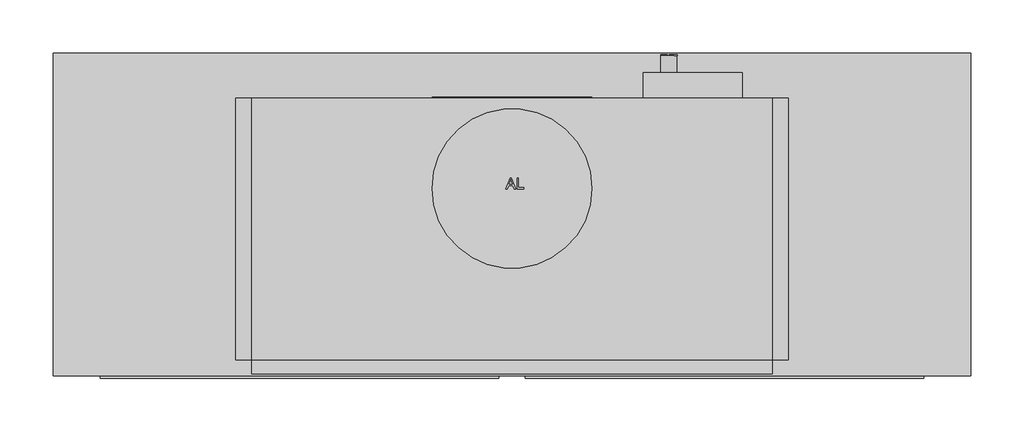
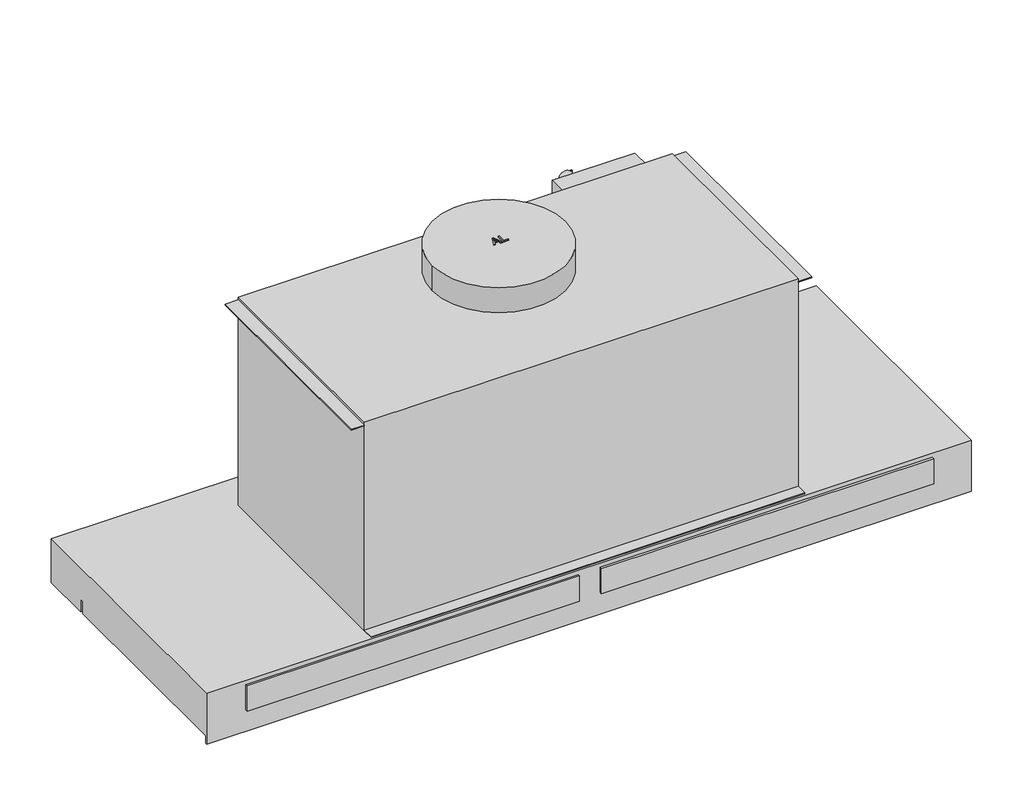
# Not in any storey: 1 proxy.
"""IFC4 building model written with IfcOpenShell, lengths in millimetres."""

import ifcopenshell
import ifcopenshell.guid

model = None  # the IFC model being written
_history = None  # IfcOwnerHistory: only IFC2X3 demands one
_inside = {}  # id of a spatial element -> (the spatial element, [elements in it])
_under = {}  # id of a project, library or spatial element -> (it, [spatial elements below it])
_declared = {}  # id of a project -> (the project, [libraries it declares])
_typed = {}  # id of a type object -> (the type object, [elements of that type])
_made_of = {}  # id of a material, layer set ... -> (it, [elements and type objects made of it])


def new_model(schema):
    """Start an empty IFC model of exactly this schema.

    Asked for "IFC4X3", IfcOpenShell would pick the latest addendum, in which some entities
    have other attributes; the version numbers below select the first issue.
    IFC2X3 requires an IfcOwnerHistory on every rooted entity: one is made here for all.
    """
    global model, _history
    if schema == "IFC4X3":
        model = ifcopenshell.file(schema_version=(4, 3, 0, 0))
    else:
        model = ifcopenshell.file(schema=schema)
    _inside.clear()
    _under.clear()
    _declared.clear()
    _typed.clear()
    _made_of.clear()
    _history = None
    if model.schema == "IFC2X3":
        org = make("IfcOrganization", Name="unknown")
        user = make(
            "IfcPersonAndOrganization",
            ThePerson=make("IfcPerson", FamilyName="unknown"),
            TheOrganization=org,
        )
        app = make(
            "IfcApplication",
            ApplicationDeveloper=org,
            Version="unknown",
            ApplicationFullName="unknown",
            ApplicationIdentifier="unknown",
        )
        _history = make(
            "IfcOwnerHistory",
            OwningUser=user,
            OwningApplication=app,
            ChangeAction="ADDED",
            CreationDate=0,
        )
    return model


def make(cls, **values):
    """One entity of the class cls with the attributes given. An attribute that is None is left unset."""
    return model.create_entity(
        cls, **{name: value for name, value in values.items() if value is not None}
    )


def rooted(cls, **values):
    """An entity with a GlobalId (a new one), such as an element, a storey or a relation."""
    return make(cls, GlobalId=ifcopenshell.guid.new(), OwnerHistory=_history, **values)


def si_unit(unit_type, name, prefix=None):
    """IfcSIUnit, for example si_unit("LENGTHUNIT", "METRE", prefix="MILLI")."""
    return make("IfcSIUnit", UnitType=unit_type, Prefix=prefix, Name=name)


def assignment(units):
    """IfcUnitAssignment: the units of a project."""
    return None if units is None else make("IfcUnitAssignment", Units=units)


def point(xyz):
    """IfcCartesianPoint."""
    return None if xyz is None else make("IfcCartesianPoint", Coordinates=xyz)


def direction(xyz):
    """IfcDirection."""
    return None if xyz is None else make("IfcDirection", DirectionRatios=xyz)


def frame(location, z_axis=None, x_axis=None):
    """IfcAxis2Placement3D, a coordinate frame: its origin and axes. An axis left out is left unset."""
    return make(
        "IfcAxis2Placement3D",
        Location=point(location),
        Axis=direction(z_axis),
        RefDirection=direction(x_axis),
    )


def frame_2d(location, x_axis=None):
    """IfcAxis2Placement2D, a coordinate frame in the plane: its origin and x axis."""
    return make(
        "IfcAxis2Placement2D", Location=point(location), RefDirection=direction(x_axis)
    )


def origin():
    """The frame at (0, 0, 0) with its axes left unset."""
    return frame((0.0, 0.0, 0.0))


def origin_with_axes():
    """The frame at (0, 0, 0) with the z axis (0, 0, 1) and the x axis (1, 0, 0) written out."""
    return frame((0.0, 0.0, 0.0), z_axis=(0.0, 0.0, 1.0), x_axis=(1.0, 0.0, 0.0))


def place(relative_to, where):
    """IfcLocalPlacement: puts the frame where relative to a parent placement (None: the world)."""
    return make(
        "IfcLocalPlacement", PlacementRelTo=relative_to, RelativePlacement=where
    )


def context(
    kind, dimensions, precision=None, world=None, true_north=None, identifier=None
):
    """IfcGeometricRepresentationContext, for example the 3D "Model" context."""
    return make(
        "IfcGeometricRepresentationContext",
        ContextIdentifier=identifier,
        ContextType=kind,
        CoordinateSpaceDimension=dimensions,
        Precision=precision,
        WorldCoordinateSystem=world,
        TrueNorth=true_north,
    )


def project(units=None, contexts=None):
    """IfcProject with its units and contexts."""
    return rooted(
        "IfcProject",
        Name="project",
        RepresentationContexts=contexts,
        UnitsInContext=assignment(units),
    )


def spatial(cls, under=None, at=None, **own):
    """A site, building, storey or space (cls), placed at a placement, below another one or the project."""
    s = rooted(cls, ObjectPlacement=at, **own)
    if under is not None:
        _under.setdefault(under.id(), (under, []))[1].append(s)
    return s


def polyline(points):
    """IfcPolyline through the points."""
    return make("IfcPolyline", Points=[point(p) for p in points])


def circle_curve(where, radius):
    """IfcCircle in the frame where."""
    return make("IfcCircle", Position=where, Radius=radius)


def trimmed(basis, trim1, trim2, sense, master):
    """IfcTrimmedCurve: the piece of a basis curve between two trims."""
    return make(
        "IfcTrimmedCurve",
        BasisCurve=basis,
        Trim1=trim1,
        Trim2=trim2,
        SenseAgreement=sense,
        MasterRepresentation=master,
    )


def segment(curve, same_sense, transition):
    """IfcCompositeCurveSegment."""
    return make(
        "IfcCompositeCurveSegment",
        Transition=transition,
        SameSense=same_sense,
        ParentCurve=curve,
    )


def composite_curve(segments, self_intersect=None):
    """IfcCompositeCurve: segments joined end to end."""
    return make("IfcCompositeCurve", Segments=segments, SelfIntersect=self_intersect)


def outline(outer, holes=None, kind="AREA"):
    """IfcArbitraryClosedProfileDef: a profile drawn as a closed curve; with holes, ...WithVoids."""
    if holes is None:
        return make("IfcArbitraryClosedProfileDef", ProfileType=kind, OuterCurve=outer)
    return make(
        "IfcArbitraryProfileDefWithVoids",
        ProfileType=kind,
        OuterCurve=outer,
        InnerCurves=holes,
    )


def extrude(swept, where, along, depth):
    """IfcExtrudedAreaSolid: the profile swept, set in the frame where, extruded along a direction by depth."""
    return make(
        "IfcExtrudedAreaSolid",
        SweptArea=swept,
        Position=where,
        ExtrudedDirection=direction(along),
        Depth=depth,
    )


def faces_of(points, faces, orient=None, outer=None):
    """IfcFace entities. A face is a list of loops; a loop is a list of indices into points, from 0.

    orient and outer hold one flag for each loop. By default every Orientation is true, the
    first loop of a face is its IfcFaceOuterBound and the others are IfcFaceBound.
    """
    made = []
    for i, loops in enumerate(faces):
        bounds = []
        for j, loop in enumerate(loops):
            is_outer = j == 0 if outer is None else outer[i][j]
            bounds.append(
                make(
                    "IfcFaceOuterBound" if is_outer else "IfcFaceBound",
                    Bound=make("IfcPolyLoop", Polygon=[points[k] for k in loop]),
                    Orientation=True if orient is None else orient[i][j],
                )
            )
        made.append(make("IfcFace", Bounds=bounds))
    return made


def faceted_brep(points, faces, orient=None, outer=None, voids=None):
    """IfcFacetedBrep: a solid bounded by flat faces; with voids (closed shells), ...WithVoids."""
    shared = [point(p) for p in points]
    hull = make("IfcClosedShell", CfsFaces=faces_of(shared, faces, orient, outer))
    if voids is None:
        return make("IfcFacetedBrep", Outer=hull)
    return make(
        "IfcFacetedBrepWithVoids",
        Outer=hull,
        Voids=[
            make(cls, CfsFaces=faces_of(shared, fs, o, b)) for cls, fs, o, b in voids
        ],
    )


def shape(context_of_items, identifier, shape_type, items):
    """IfcShapeRepresentation: the items that make up one representation, for example the "Body"."""
    return make(
        "IfcShapeRepresentation",
        ContextOfItems=context_of_items,
        RepresentationIdentifier=identifier,
        RepresentationType=shape_type,
        Items=items,
    )


def source(mapping_origin, context_of_items, identifier, shape_type, items):
    """IfcRepresentationMap: a shape defined once, which mapped items show again and again."""
    return make(
        "IfcRepresentationMap",
        MappingOrigin=mapping_origin,
        MappedRepresentation=shape(context_of_items, identifier, shape_type, items),
    )


def transform(
    local_origin,
    x_axis=None,
    y_axis=None,
    z_axis=None,
    scale=None,
    scale2=None,
    scale3=None,
    uniform=True,
):
    """IfcCartesianTransformationOperator3D, or its non-uniform kind. x_axis, y_axis, z_axis: its Axis1, 2, 3."""
    if uniform:
        return make(
            "IfcCartesianTransformationOperator3D",
            Axis1=direction(x_axis),
            Axis2=direction(y_axis),
            LocalOrigin=point(local_origin),
            Scale=scale,
            Axis3=direction(z_axis),
        )
    return make(
        "IfcCartesianTransformationOperator3DnonUniform",
        Axis1=direction(x_axis),
        Axis2=direction(y_axis),
        LocalOrigin=point(local_origin),
        Scale=scale,
        Axis3=direction(z_axis),
        Scale2=scale2,
        Scale3=scale3,
    )


def mapped(mapping_source, mapping_target):
    """IfcMappedItem: shows the shape of a source again, moved by a transform."""
    return make(
        "IfcMappedItem", MappingSource=mapping_source, MappingTarget=mapping_target
    )


def made_of(thing, what):
    """Note that an element or type object is made of a material, layer set ...; save() writes the relation."""
    if what is not None:
        _made_of.setdefault(what.id(), (what, []))[1].append(thing)
    return thing


def element(
    cls,
    number,
    at=None,
    inside=None,
    cuts=None,
    type_object=None,
    material=None,
    context=None,
    identifier="Body",
    shape_type=None,
    held_by="IfcProductDefinitionShape",
    body=None,
    shapes=None,
    **own,
):
    """One element of the class cls, such as IfcWall. Its Tag is "e" and its number.

    at: its placement. inside: the storey or other place that contains it. cuts: it is an
    opening in that element (IfcRelVoidsElement). A single representation is given by context,
    identifier, shape_type and body (its items); several are given by shapes. held_by: the class
    of the entity that holds the representations. save() writes the other relations.
    """
    e = rooted(cls, Tag="e%d" % number, ObjectPlacement=at, **own)
    if body is not None:
        shapes = [shape(context, identifier, shape_type, body)]
    if shapes is not None:
        e.Representation = make(held_by, Representations=shapes)
    if inside is not None:
        _inside.setdefault(inside.id(), (inside, []))[1].append(e)
    if cuts is not None:
        rooted(
            "IfcRelVoidsElement", RelatingBuildingElement=cuts, RelatedOpeningElement=e
        )
    if type_object is not None:
        _typed.setdefault(type_object.id(), (type_object, []))[1].append(e)
    return made_of(e, material)


def aggregate(whole, parts):
    """IfcRelAggregates: a whole, such as a stair, and the parts it consists of."""
    return rooted("IfcRelAggregates", RelatingObject=whole, RelatedObjects=parts)


def save(model, path):
    """Write the relations noted so far, then the file.

    IfcRelAggregates (storeys below a building ...), IfcRelContainedInSpatialStructure (elements
    in a storey), IfcRelDefinesByType, IfcRelAssociatesMaterial and IfcRelDeclares: one each for
    every whole, place, type object, material and project.
    """
    for whole, parts in _under.values():
        aggregate(whole, parts)
    for where, things in _inside.values():
        rooted(
            "IfcRelContainedInSpatialStructure",
            RelatedElements=things,
            RelatingStructure=where,
        )
    for kind, things in _typed.values():
        rooted("IfcRelDefinesByType", RelatedObjects=things, RelatingType=kind)
    for what, things in _made_of.values():
        rooted("IfcRelAssociatesMaterial", RelatedObjects=things, RelatingMaterial=what)
    for by, libraries in _declared.values():
        rooted("IfcRelDeclares", RelatingContext=by, RelatedDefinitions=libraries)
    model.write(path)


def plane_surface(at):
    """IfcPlane: the flat surface through the origin of the frame at, square to its z axis."""
    return make("IfcPlane", Position=at)


def revolved_surface(curve, axis_point, axis_direction):
    """IfcSurfaceOfRevolution: the curve turned about the line through axis_point along axis_direction."""
    return make(
        "IfcSurfaceOfRevolution",
        SweptCurve=make("IfcArbitraryOpenProfileDef", ProfileType="CURVE", Curve=curve),
        AxisPosition=make("IfcAxis1Placement", Location=point(axis_point), Axis=direction(axis_direction)),
    )


def advanced_brep(points, edges, surfaces, faces):
    """IfcAdvancedBrep: a solid bounded by faces that lie on surfaces and meet in shared edges.

    An edge is (start, end): straight between two places in points (the first is 0);
    or (start, end, curve); or (start, end, curve, False) where it runs against its curve.
    A face is (place in surfaces, loops), or (place, loops, False) where it looks against
    its surface's normal. A loop lists edges by number (the first is 1), with a minus sign
    where the edge is run from its end to its start. The first loop is the outer one.
    """
    corners = [point(p) for p in points]
    vertices = [make("IfcVertexPoint", VertexGeometry=c) for c in corners]
    made = []
    for start, end, *more in edges:
        made.append(
            make(
                "IfcEdgeCurve",
                EdgeStart=vertices[start],
                EdgeEnd=vertices[end],
                EdgeGeometry=more[0] if more else make("IfcPolyline", Points=[corners[start], corners[end]]),
                SameSense=more[1] if len(more) > 1 else True,
            )
        )
    hull = []
    for where, loops, *sense in faces:
        bounds = []
        for j, loop in enumerate(loops):
            ring = [make("IfcOrientedEdge", EdgeElement=made[abs(k) - 1], Orientation=k > 0) for k in loop]
            bounds.append(
                make(
                    "IfcFaceOuterBound" if j == 0 else "IfcFaceBound",
                    Bound=make("IfcEdgeLoop", EdgeList=ring),
                    Orientation=True,
                )
            )
        hull.append(make("IfcAdvancedFace", Bounds=bounds, FaceSurface=surfaces[where], SameSense=sense[0] if sense else True))
    return make("IfcAdvancedBrep", Outer=make("IfcClosedShell", CfsFaces=hull))


def specialty_equipment_5ec509a7(model_context):
    return source(origin(), model_context, "Body", "SolidModel", [
        extrude(outline(polyline([(119.0, -21.25), (119.0, -33.75), (-119.0, -33.75), (-119.0, -21.25), (119.0, -21.25)])), frame((0.0, 0.0, -52.0), z_axis=(0.0, 0.0, 1.0), x_axis=(1.0, 0.0, 0.0)), (0.0, 0.0, 1.0), 1.0),
        extrude(outline(polyline([(259.2, -42.3), (259.2, -288.0), (244.2, -288.0), (244.2, -42.3), (259.2, -42.3)])), frame((0.0, 0.0, 244.0), z_axis=(0.0, 0.0, 1.0), x_axis=(1.0, 0.0, 0.0)), (0.0, 0.0, 1.0), 1.0),
        extrude(outline(polyline([(244.2, -288.0), (244.2, -301.010493), (-244.2, -301.010493), (-244.2, -288.0), (244.2, -288.0)])), origin_with_axes(), (0.0, 0.0, 1.0), 1.0),
        extrude(outline(polyline([(-5.7216201, -127.4839826), (-1.7117063, -117.4383516), (-0.642396, -117.4383516), (3.3675177, -127.4839826), (2.04069, -127.4839826), (0.8904456, -124.3447229), (-3.2470005, -124.3447229), (-4.3947924, -127.4839826), (-5.7216201, -127.4839826)]), holes=[polyline([(-2.7859218, -123.089019), (0.4318194, -123.089019), (-0.4731703, -120.6193046), (-1.1770512, -118.6940555), (-1.8024506, -120.4034805), (-2.7859218, -123.089019)])]), frame((0.0, 0.0, 278.0), z_axis=(0.0, 0.0, 1.0), x_axis=(1.0, 0.0, 0.0)), (0.0, 0.0, 1.0), 1.0),
        extrude(outline(polyline([(4.7090607, -127.4839826), (4.7090607, -117.4383516), (5.9647646, -117.4383516), (5.9647646, -126.2282787), (10.9875801, -126.2282787), (10.9875801, -127.4839826), (4.7090607, -127.4839826)])), frame((0.0, 0.0, 278.0), z_axis=(0.0, 0.0, 1.0), x_axis=(1.0, 0.0, 0.0)), (0.0, 0.0, 1.0), 1.0),
        extrude(outline(polyline([(-259.2, -42.3), (-244.2, -42.3), (-244.2, -288.0), (-259.2, -288.0), (-259.2, -42.3)])), frame((0.0, 0.0, 244.0), z_axis=(0.0, 0.0, 1.0), x_axis=(1.0, 0.0, 0.0)), (0.0, 0.0, 1.0), 1.0),
        extrude(outline(composite_curve([segment(trimmed(circle_curve(frame_2d((96.0, 0.0)), 75.0), [point((96.0, -75.0))], [point((96.0, 75.0))], False, "CARTESIAN"), True, "CONTINUOUS"), segment(trimmed(circle_curve(frame_2d((96.0, 0.0)), 75.0), [point((96.0, 75.0))], [point((96.0, -75.0))], False, "CARTESIAN"), True, "CONTINUOUS")], self_intersect=False)), frame((0.0, -42.3, 0.0), z_axis=(0.0, 1.0, 0.0), x_axis=(0.0, 0.0, 1.0)), (0.0, 0.0, 1.0), 1.2154264),
        extrude(outline(composite_curve([segment(trimmed(circle_curve(frame_2d((0.0, -127.0)), 75.0), [point((-75.0, -127.0))], [point((75.0, -127.0))], False, "CARTESIAN"), True, "CONTINUOUS"), segment(trimmed(circle_curve(frame_2d((0.0, -127.0)), 75.0), [point((75.0, -127.0))], [point((-75.0, -127.0))], False, "CARTESIAN"), True, "CONTINUOUS")], self_intersect=False)), frame((0.0, 0.0, 248.0), z_axis=(0.0, 0.0, 1.0), x_axis=(1.0, 0.0, 0.0)), (0.0, 0.0, 1.0), 30.0),
        extrude(outline(polyline([(244.2, -42.3), (244.2, -288.0), (-244.2, -288.0), (-244.2, -42.3), (244.2, -42.3)])), origin_with_axes(), (0.0, 0.0, 1.0), 248.0),
        advanced_brep(
        [(139.1711584, -34.3, 112.0), (143.2288416, -34.3, 112.0), (138.7132307, -42.3, 112.0), (143.6867693, -42.3, 112.0)],
        [
            (0, 1, circle_curve(frame((141.2, -34.3, 112.0), z_axis=(0.0, 1.0, 0.0), x_axis=(-1.0, 0.0, 0.0)), 2.0288416)),
            (1, 0, circle_curve(frame((141.2, -34.3, 112.0), z_axis=(0.0, 1.0, 0.0), x_axis=(1.0, 0.0, 0.0)), 2.0288416)),
            (2, 3, circle_curve(frame((141.2, -42.3, 112.0), z_axis=(0.0, -1.0, 0.0), x_axis=(1.0, 0.0, 0.0)), 2.4867693)),
            (3, 2, circle_curve(frame((141.2, -42.3, 112.0), z_axis=(0.0, -1.0, 0.0), x_axis=(-1.0, 0.0, 0.0)), 2.4867693)),
            (2, 0),
            (1, 3),
        ],
        [
            plane_surface(frame((141.2, -34.3, 112.0), z_axis=(0.0, 1.0, 0.0), x_axis=(0.0, 0.0, -1.0))),
            plane_surface(frame((141.2, -42.3, 112.0), z_axis=(0.0, -1.0, 0.0), x_axis=(0.0, 0.0, -1.0))),
            revolved_surface(polyline([(143.22884160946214, -34.3, 112.0), (143.6867693, -42.3, 112.0)]), (141.2, 1.1438773, 112.0), (0.0, -1.0, 0.0)),
            revolved_surface(polyline([(139.17115839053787, -34.3, 112.0), (138.7132307, -42.3, 112.0)]), (141.2, 1.1438773, 112.0), (0.0, -1.0, 0.0)),
        ],
        [
            (0, [[1, 2]]),
            (1, [[3, 4]]),
            (2, [[-3, 5, -2, 6]]),
            (3, [[-4, -6, -1, -5]]),
        ],
    ),
        extrude(outline(polyline([(-12.3800203, -305.5611099), (-386.3800203, -305.5611099), (-386.3800203, -303.0), (-12.3800203, -303.0), (-12.3800203, -305.5611099)])), frame((0.0, 0.0, -35.0), z_axis=(0.0, 0.0, 1.0), x_axis=(1.0, 0.0, 0.0)), (0.0, 0.0, 1.0), 30.0),
        extrude(outline(polyline([(386.3800203, -305.5611099), (12.3800203, -305.5611099), (12.3800203, -303.0), (386.3800203, -303.0), (386.3800203, -305.5611099)])), frame((0.0, 0.0, -35.0), z_axis=(0.0, 0.0, 1.0), x_axis=(1.0, 0.0, 0.0)), (0.0, 0.0, 1.0), 30.0),
        extrude(outline(polyline([(140.0671036, -279.4201694), (140.0671036, -299.4201694), (-140.0671036, -299.4201694), (-140.0671036, -279.4201694), (140.0671036, -279.4201694)])), frame((0.0, 0.0, -62.0), z_axis=(0.0, 0.0, 1.0), x_axis=(1.0, 0.0, 0.0)), (0.0, 0.0, 1.0), 10.0),
        extrude(outline(polyline([(225.0642317, 154.9241859), (235.1098627, 154.9241859), (235.1098627, 147.7038886), (233.8541589, 147.7038886), (233.8541589, 153.668482), (230.8718622, 153.668482), (230.8718622, 148.0178146), (229.6161583, 148.0178146), (229.6161583, 153.668482), (226.3199356, 153.668482), (226.3199356, 147.5469256), (225.0642317, 147.5469256), (225.0642317, 154.9241859)])), frame((0.0, -2.3, 0.0), z_axis=(0.0, 1.0, 0.0), x_axis=(0.0, 0.0, 1.0)), (0.0, 0.0, 1.0), 1.0),
        extrude(outline(polyline([(225.0642317, 145.6633698), (235.1098627, 145.6633698), (235.1098627, 144.407666), (226.3199356, 144.407666), (226.3199356, 139.3848504), (225.0642317, 139.3848504), (225.0642317, 145.6633698)])), frame((0.0, -2.3, 0.0), z_axis=(0.0, 1.0, 0.0), x_axis=(0.0, 0.0, 1.0)), (0.0, 0.0, 1.0), 1.0),
        extrude(outline(composite_curve([segment(trimmed(circle_curve(frame_2d((230.0, 147.0)), 7.5), [point((230.0, 139.5))], [point((230.0, 154.5))], False, "CARTESIAN"), True, "CONTINUOUS"), segment(trimmed(circle_curve(frame_2d((230.0, 147.0)), 7.5), [point((230.0, 154.5))], [point((230.0, 139.5))], False, "CARTESIAN"), True, "CONTINUOUS")], self_intersect=False)), frame((0.0, -18.1362154, 0.0), z_axis=(0.0, 1.0, 0.0), x_axis=(0.0, 0.0, 1.0)), (0.0, 0.0, 1.0), 15.8362154),
        extrude(outline(polyline([(216.0, -42.3), (123.0, -42.3), (123.0, -18.1362154), (216.0, -18.1362154), (216.0, -42.3)])), frame((0.0, 0.0, 204.0), z_axis=(0.0, 0.0, 1.0), x_axis=(1.0, 0.0, 0.0)), (0.0, 0.0, 1.0), 40.0),
        faceted_brep([(430.5, 0.0, 0.0), (-430.5, 0.0, 0.0), (-430.5, -303.0, 0.0), (430.5, -303.0, 0.0), (-430.5, 0.0, -52.0), (430.5, 0.0, -52.0), (430.5, -57.4839826, -52.0), (-430.5, -57.4839826, -52.0), (-125.0, -41.0, -52.0), (125.0, -41.0, -52.0), (125.0, -14.0, -52.0), (-125.0, -14.0, -52.0), (-430.5, -61.3884394, -52.0), (430.5, -61.3884394, -52.0), (430.5, -301.010493, -52.0), (-430.5, -301.010493, -52.0), (56.7717187, -231.6352835, -52.0), (56.7717187, -176.6352835, -52.0), (-56.7717187, -176.6352835, -52.0), (-56.7717187, -231.6352835, -52.0), (-430.5, -57.4839826, -37.0), (-430.5, -61.3884394, -37.0), (-430.5, -301.010493, -60.7521078), (-430.5, -303.0, -60.7521078), (430.5, -303.0, -60.7521078), (430.5, -301.010493, -60.7521078), (430.5, -61.3884394, -37.0), (430.5, -57.4839826, -37.0), (56.7717187, -191.6352835, -37.0), (56.7717187, -246.6352835, -37.0), (-56.7717187, -191.6352835, -37.0), (-56.7717187, -246.6352835, -37.0), (-125.0, -41.0, -48.9139644), (-125.0, -14.0, -48.9139644), (125.0, -14.0, -48.9139644), (125.0, -41.0, -48.9139644)], [[[0, 1, 2, 3]], [[4, 5, 6, 7], [8, 9, 10, 11]], [[12, 13, 14, 15], [16, 17, 18, 19]], [[1, 0, 5, 4]], [[2, 1, 4, 7, 20, 21, 12, 15, 22, 23]], [[3, 2, 23, 24]], [[0, 3, 24, 25, 14, 13, 26, 27, 6, 5]], [[28, 17, 16, 29]], [[30, 31, 19, 18]], [[28, 29, 31, 30]], [[29, 16, 19, 31]], [[17, 28, 30, 18]], [[25, 24, 23, 22]], [[14, 25, 22, 15]], [[26, 21, 20, 27]], [[21, 26, 13, 12]], [[27, 20, 7, 6]], [[32, 33, 34, 35]], [[32, 35, 9, 8]], [[35, 34, 10, 9]], [[34, 33, 11, 10]], [[33, 32, 8, 11]]]),
    ])


model = new_model("IFC4")

# Units and contexts
model_context = context("Model", 3, world=origin())
ifc_project = project(units=[si_unit("LENGTHUNIT", "METRE", prefix="MILLI")], contexts=[model_context])

# Site, building
site = spatial("IfcSite", under=ifc_project)
building = spatial("IfcBuilding", under=site)

# Proxy
placement = place(None, origin())
specialty_equipment_shape = specialty_equipment_5ec509a7(model_context)
element("IfcBuildingElementProxy", 1, Name="11878590_USA_DAS8930_EDST : 28S8930S_USA_11878590_DAS8930_EDST", ObjectType="11878590_USA_DAS8930_EDST : 28S8930S_USA_11878590_DAS8930_EDST", at=placement, inside=building, context=model_context, shape_type="MappedRepresentation", body=[
    mapped(specialty_equipment_shape, transform((0.0, 0.0, 0.0), x_axis=(1.0, 0.0, 0.0), y_axis=(0.0, 1.0, 0.0), z_axis=(0.0, 0.0, 1.0))),
])

save(model, "model.ifc")
